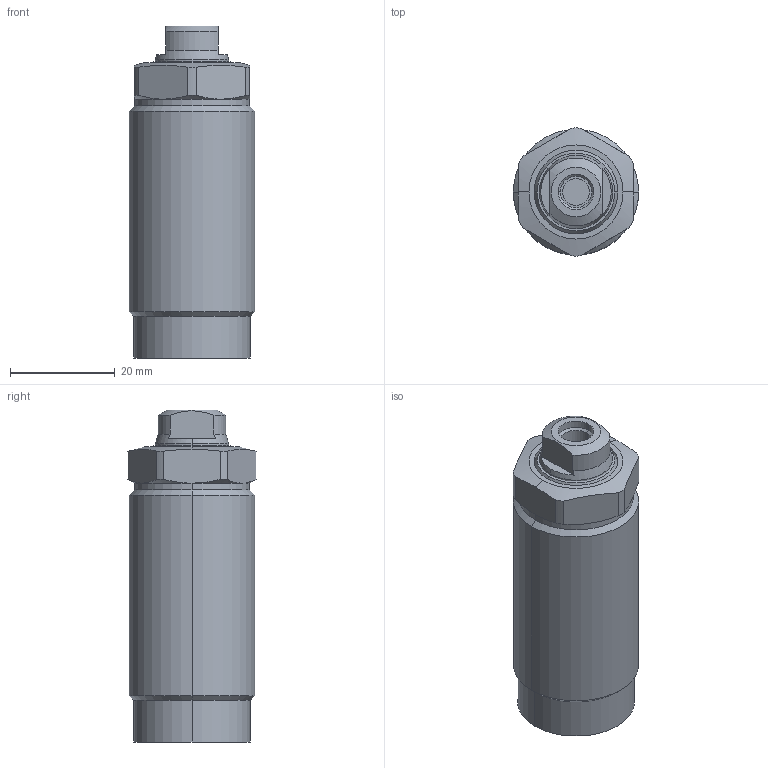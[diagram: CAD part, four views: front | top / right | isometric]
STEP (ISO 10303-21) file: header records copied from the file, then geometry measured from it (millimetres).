
FILE_DESCRIPTION((' '),'2;1');
FILE_NAME( 'TGP24-AL.x_t.stp', '2025-02-10T16:03:52', (' '), ('--- Datakit www.datakit.com---'), ' Datakit CrossCadWare V2024.1 Dec 21 2023', 'Mastercam 2025', ' ');
FILE_SCHEMA(('AUTOMOTIVE_DESIGN { 1 0 10303 214 1 1 1 1 }'));
Length unit declared in the file: millimetre
Products named in the file (1): TGP24-AL
Bounding box: 24 x 24.49 x 63.5 mm (x, y, z)
Volume: 27954.6 mm3; surface area: 6952.2 mm2
Topology: 2 solids, 2 shells, 82 faces, 187 edges, 116 vertices
Faces by surface type: cylinder 34, cone 22, plane 22, torus 4
Entity records: 2448 total; most frequent: CARTESIAN_POINT 556, DIRECTION 420, ORIENTED_EDGE 370, EDGE_CURVE 185, AXIS2_PLACEMENT_3D 180, VERTEX_POINT 116, CIRCLE 97, EDGE_LOOP 91
